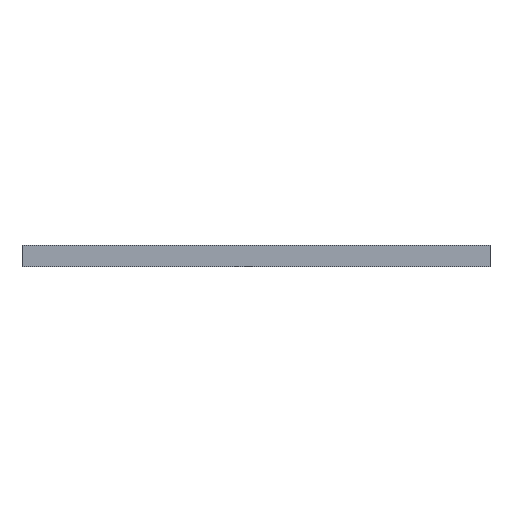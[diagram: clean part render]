
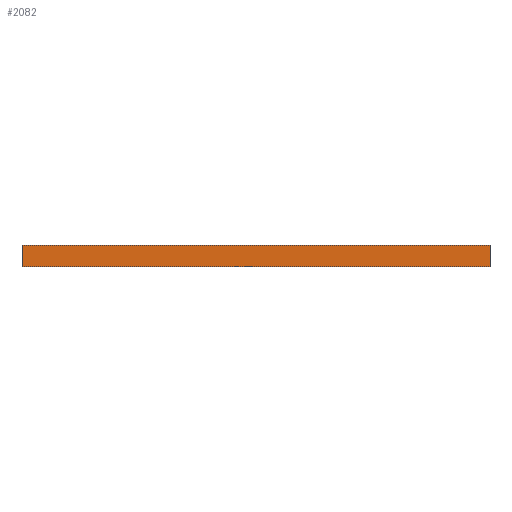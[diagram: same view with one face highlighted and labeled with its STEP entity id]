
A CAD part, front view. The second image highlights one B-rep face of the part: STEP entity #2082.
In plain terms, the highlighted planar face has unit normal (0, -1, 0).
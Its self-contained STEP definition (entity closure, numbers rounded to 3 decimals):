
#78 = EDGE_CURVE ( 'NONE', #1011, #1018, #1450, .T. ) ;
#109 = EDGE_CURVE ( 'NONE', #1018, #957, #1581, .T. ) ;
#194 = EDGE_CURVE ( 'NONE', #1011, #1031, #2144, .T. ) ;
#246 = EDGE_CURVE ( 'NONE', #1031, #957, #2166, .T. ) ;
#302 = AXIS2_PLACEMENT_3D ( 'NONE', #645, #833, #664 ) ;
#475 = CARTESIAN_POINT ( 'NONE',  ( 64.5, -112.5, 0. ) ) ;
#601 = CARTESIAN_POINT ( 'NONE',  ( -64.5, -112.5, 5.875 ) ) ;
#603 = CARTESIAN_POINT ( 'NONE',  ( 64.5, -112.5, 5.875 ) ) ;
#645 = CARTESIAN_POINT ( 'NONE',  ( -64.5, -112.5, 5.875 ) ) ;
#664 = DIRECTION ( 'NONE',  ( 0., 0., 1. ) ) ;
#832 = PLANE ( 'NONE',  #302 ) ;
#833 = DIRECTION ( 'NONE',  ( 0., 1., 0. ) ) ;
#860 = CARTESIAN_POINT ( 'NONE',  ( -64.5, -112.5, 0. ) ) ;
#935 = CARTESIAN_POINT ( 'NONE',  ( -64.5, -112.5, 5.875 ) ) ;
#940 = CARTESIAN_POINT ( 'NONE',  ( -64.5, -112.5, 0. ) ) ;
#957 = VERTEX_POINT ( 'NONE', #475 ) ;
#1011 = VERTEX_POINT ( 'NONE', #601 ) ;
#1018 = VERTEX_POINT ( 'NONE', #603 ) ;
#1031 = VERTEX_POINT ( 'NONE', #860 ) ;
#1160 = CARTESIAN_POINT ( 'NONE',  ( -64.5, -112.5, 5.875 ) ) ;
#1161 = DIRECTION ( 'NONE',  ( 1., 0., 0. ) ) ;
#1203 = CARTESIAN_POINT ( 'NONE',  ( 64.5, -112.5, 5.875 ) ) ;
#1210 = DIRECTION ( 'NONE',  ( 0., 0., -1. ) ) ;
#1309 = DIRECTION ( 'NONE',  ( 0., 0., -1. ) ) ;
#1311 = DIRECTION ( 'NONE',  ( 1., 0., 0. ) ) ;
#1450 = LINE ( 'NONE', #1160, #1567 ) ;
#1564 = VECTOR ( 'NONE', #1210, 1000. ) ;
#1567 = VECTOR ( 'NONE', #1161, 1000. ) ;
#1581 = LINE ( 'NONE', #1203, #1564 ) ;
#1715 = FACE_OUTER_BOUND ( 'NONE', #2218, .T. ) ;
#1890 = ORIENTED_EDGE ( 'NONE', *, *, #109, .F. ) ;
#1905 = ORIENTED_EDGE ( 'NONE', *, *, #194, .T. ) ;
#1913 = ORIENTED_EDGE ( 'NONE', *, *, #246, .T. ) ;
#1923 = ORIENTED_EDGE ( 'NONE', *, *, #78, .F. ) ;
#2082 = ADVANCED_FACE ( 'NONE', ( #1715 ), #832, .F. ) ;
#2122 = VECTOR ( 'NONE', #1309, 1000. ) ;
#2144 = LINE ( 'NONE', #935, #2122 ) ;
#2158 = VECTOR ( 'NONE', #1311, 1000. ) ;
#2166 = LINE ( 'NONE', #940, #2158 ) ;
#2218 = EDGE_LOOP ( 'NONE', ( #1913, #1890, #1923, #1905 ) ) ;
